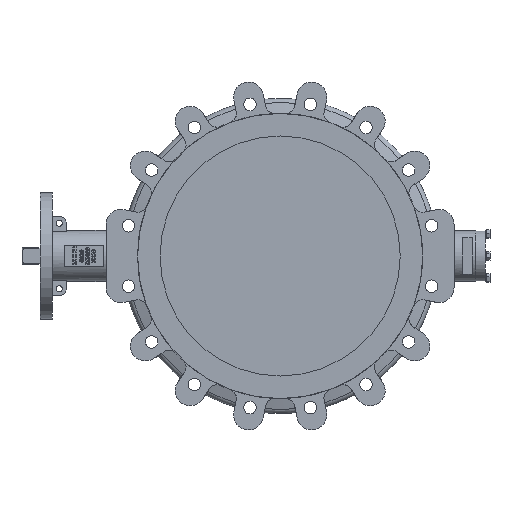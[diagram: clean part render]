
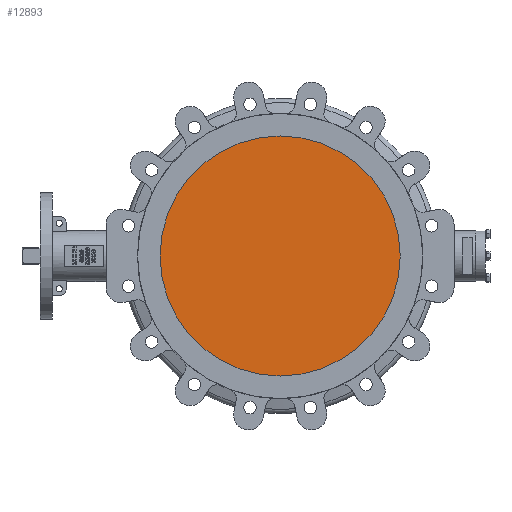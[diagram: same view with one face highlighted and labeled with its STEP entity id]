
A CAD part, left-side view. The second image highlights one B-rep face of the part: STEP entity #12893.
In plain terms, the highlighted planar face has unit normal (-1, 0, 0).
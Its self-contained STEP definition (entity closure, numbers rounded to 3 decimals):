
#474=PLANE('',#13744);
#1547=FACE_OUTER_BOUND('',#2287,.T.);
#2287=EDGE_LOOP('',(#10867));
#4777=CIRCLE('',#13743,200.);
#5893=VERTEX_POINT('',#23313);
#7580=EDGE_CURVE('',#5893,#5893,#4777,.T.);
#10867=ORIENTED_EDGE('',*,*,#7580,.F.);
#12893=ADVANCED_FACE('',(#1547),#474,.F.);
#13743=AXIS2_PLACEMENT_3D('',#23315,#16217,#16218);
#13744=AXIS2_PLACEMENT_3D('',#23316,#16219,#16220);
#16217=DIRECTION('center_axis',(1.,0.,0.));
#16218=DIRECTION('ref_axis',(0.,0.,-1.));
#16219=DIRECTION('center_axis',(1.,0.,0.));
#16220=DIRECTION('ref_axis',(0.,0.,-1.));
#23313=CARTESIAN_POINT('',(-55.594,-40.075,200.));
#23315=CARTESIAN_POINT('Origin',(-55.594,-40.075,0.));
#23316=CARTESIAN_POINT('Origin',(-55.594,-40.075,0.));
